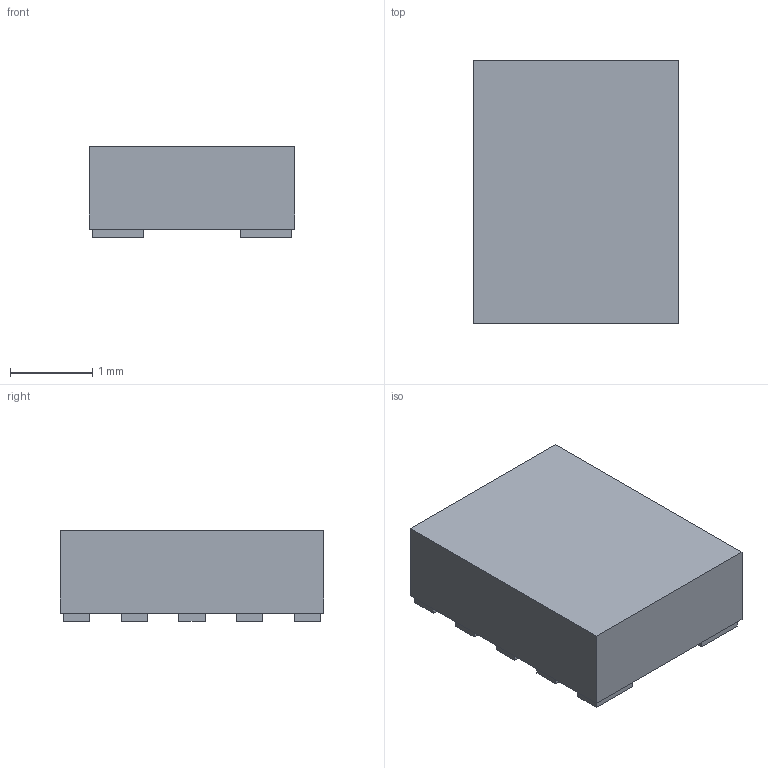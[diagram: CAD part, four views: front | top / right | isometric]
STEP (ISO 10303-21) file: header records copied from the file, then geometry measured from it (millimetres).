
FILE_DESCRIPTION(('FreeCAD Model'),'2;1');
FILE_NAME('/var/www/3D/0T/13690745.1.3.stp','2022-05-02T11:24:59',( 'Author'),(''),'Open CASCADE STEP processor 6.9','FreeCAD','Unknown' );
FILE_SCHEMA(('AUTOMOTIVE_DESIGN { 1 0 10303 214 1 1 1 1 }'));
Length unit declared in the file: millimetre
Products named in the file (3): ASSEMBLY; Body; Pins
Assembly tree (2 placements, depth 2):
  ASSEMBLY
    Body
    Pins
Bounding box: 2.5 x 3.2 x 1.1 mm (x, y, z)
Volume: 8.2 mm3; surface area: 33.2 mm2
Topology: 11 solids, 11 shells, 66 faces, 132 edges, 88 vertices
Faces by surface type: plane 66
Entity records: 3521 total; most frequent: CARTESIAN_POINT 553, DIRECTION 534, LINE 396, VECTOR 396, ORIENTED_EDGE 264, PCURVE 264, DEFINITIONAL_REPRESENTATION 264, EDGE_CURVE 132
